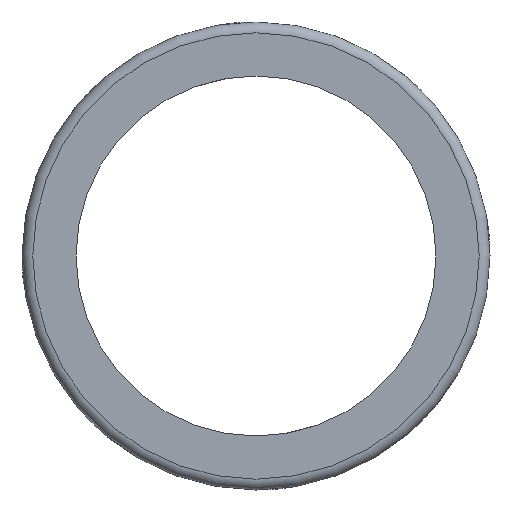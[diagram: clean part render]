
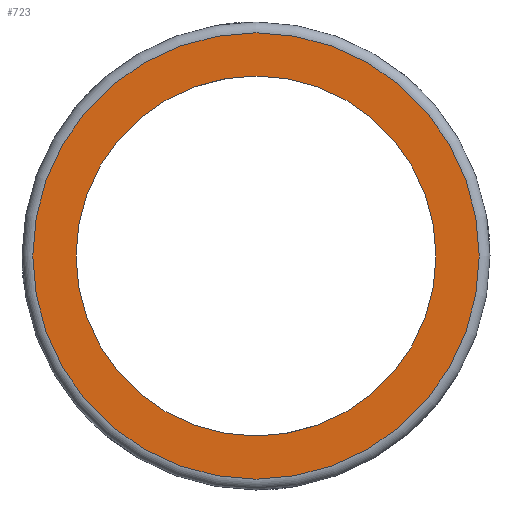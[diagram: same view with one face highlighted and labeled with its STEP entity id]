
A CAD part, left-side view. The second image highlights one B-rep face of the part: STEP entity #723.
In plain terms, the highlighted planar face has unit normal (-1, 0, 0).
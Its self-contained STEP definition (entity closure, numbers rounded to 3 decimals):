
#23=PLANE('',#779);
#43=CIRCLE('',#776,20.);
#45=CIRCLE('',#780,24.8);
#244=ORIENTED_EDGE('',*,*,#447,.T.);
#245=ORIENTED_EDGE('',*,*,#429,.T.);
#429=EDGE_CURVE('',#531,#531,#43,.T.);
#447=EDGE_CURVE('',#549,#549,#45,.F.);
#531=VERTEX_POINT('',#1171);
#549=VERTEX_POINT('',#1241);
#604=EDGE_LOOP('',(#244));
#605=EDGE_LOOP('',(#245));
#664=FACE_BOUND('',#604,.T.);
#665=FACE_BOUND('',#605,.T.);
#723=ADVANCED_FACE('',(#664,#665),#23,.F.);
#776=AXIS2_PLACEMENT_3D('',#1170,#851,#852);
#779=AXIS2_PLACEMENT_3D('',#1239,#865,#866);
#780=AXIS2_PLACEMENT_3D('',#1240,#867,#868);
#851=DIRECTION('',(1.,0.,0.));
#852=DIRECTION('',(0.,0.,-1.));
#865=DIRECTION('',(1.,0.,0.));
#866=DIRECTION('',(0.,0.,-1.));
#867=DIRECTION('',(1.,0.,0.));
#868=DIRECTION('',(0.,0.,-1.));
#1170=CARTESIAN_POINT('',(-30.,0.,0.));
#1171=CARTESIAN_POINT('',(-30.,0.,-20.));
#1239=CARTESIAN_POINT('',(-30.,0.,0.));
#1240=CARTESIAN_POINT('',(-30.,0.,0.));
#1241=CARTESIAN_POINT('',(-30.,0.,-24.8));
